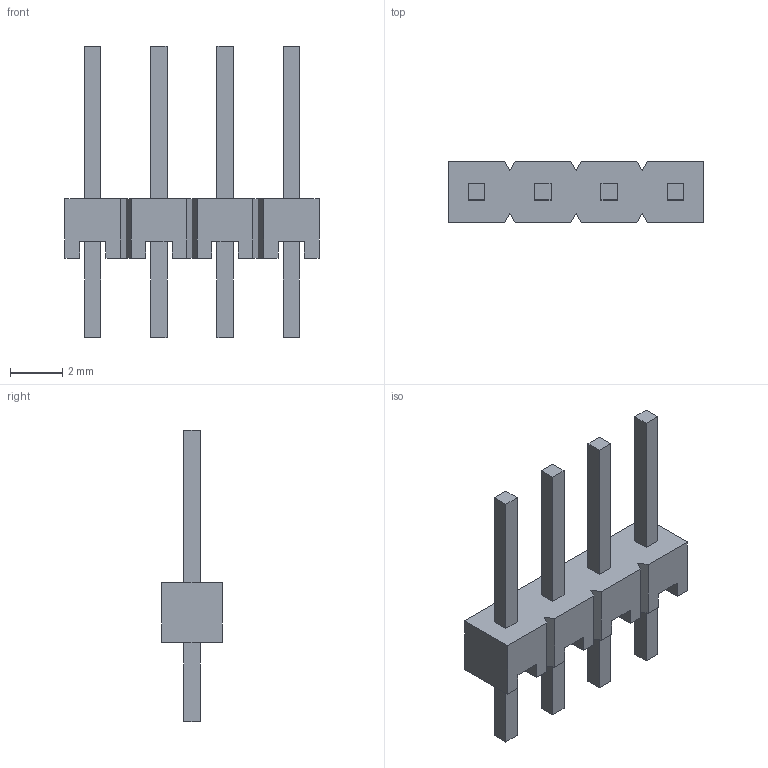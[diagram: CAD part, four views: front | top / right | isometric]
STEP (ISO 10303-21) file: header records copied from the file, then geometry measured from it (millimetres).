
FILE_DESCRIPTION((''),'2;1');
FILE_NAME('C-5-146280-4','2016-09-15T',('workeradm'),('Tyco Electronics Ltd.'),'CREO PARAMETRIC BY PTC INC, 2016050','CREO PARAMETRIC BY PTC INC, 2016050','');
FILE_SCHEMA(('AUTOMOTIVE_DESIGN { 1 0 10303 214 1 1 1 1 }'));
Length unit declared in the file: millimetre
Products named in the file (1): C-5-146280-4
Bounding box: 9.75 x 2.34 x 11.18 mm (x, y, z)
Volume: 59.8 mm3; surface area: 207.2 mm2
Topology: 1 solids, 1 shells, 80 faces, 210 edges, 140 vertices
Faces by surface type: plane 80
Entity records: 2590 total; most frequent: CARTESIAN_POINT 432, ORIENTED_EDGE 420, DIRECTION 370, VECTOR 210, LINE 210, EDGE_CURVE 210, VERTEX_POINT 140, COLOUR_RGB 126
